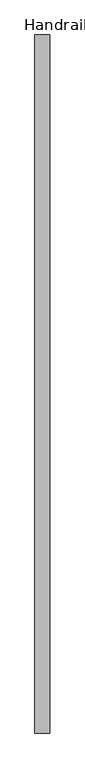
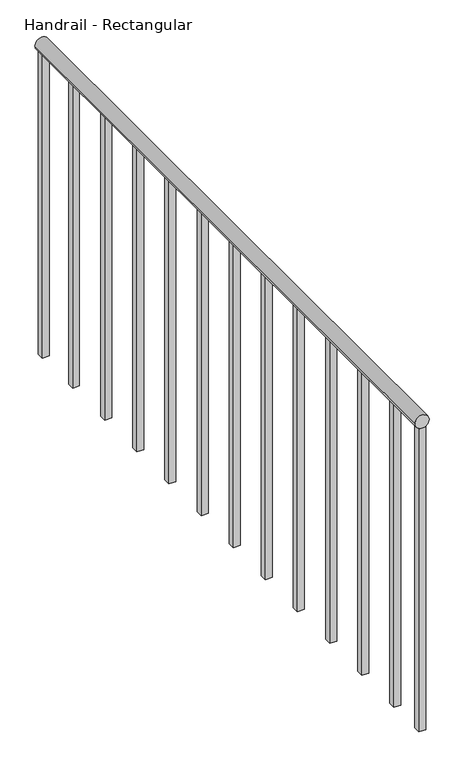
"""IFC4 building model written with IfcOpenShell, lengths in millimetres: railing geometry, Handrail - Rectangular."""

from ifc_helpers import new_model, si_unit, point, frame, frame_2d, origin, place, context, project, spatial, polyline, circle_curve, trimmed, segment, composite_curve, outline, extrude, source, transform, mapped, element, save


def handrail_rectangular_5f131317(model_context):
    return source(origin(), model_context, "Body", "SweptSolid", [
        extrude(outline(composite_curve([segment(trimmed(circle_curve(frame_2d((3943.35, -32167.4839563)), 19.05), [point((3943.35, -32186.5339563))], [point((3943.35, -32148.4339563))], False, "CARTESIAN"), True, "CONTINUOUS"), segment(trimmed(circle_curve(frame_2d((3943.35, -32167.4839563)), 19.05), [point((3943.35, -32148.4339563))], [point((3943.35, -32186.5339563))], False, "CARTESIAN"), True, "CONTINUOUS")], self_intersect=False)), frame((0.0, 8414.2316867, 0.0), z_axis=(0.0, 1.0, 0.0), x_axis=(0.0, 0.0, 1.0)), (0.0, 0.0, 1.0), 1803.4),
        extrude(outline(polyline([(-32157.9589563, 8550.7566867), (-32157.9589563, 8531.7066867), (-32177.0089563, 8531.7066867), (-32177.0089563, 8550.7566867), (-32157.9589563, 8550.7566867)])), frame((0.0, 0.0, 3048.0), z_axis=(0.0, 0.0, 1.0), x_axis=(1.0, 0.0, 0.0)), (0.0, 0.0, 1.0), 876.3),
        extrude(outline(polyline([(-32157.9589563, 8703.1566867), (-32157.9589563, 8684.1066867), (-32177.0089563, 8684.1066867), (-32177.0089563, 8703.1566867), (-32157.9589563, 8703.1566867)])), frame((0.0, 0.0, 3048.0), z_axis=(0.0, 0.0, 1.0), x_axis=(1.0, 0.0, 0.0)), (0.0, 0.0, 1.0), 876.3),
        extrude(outline(polyline([(-32157.9589563, 8855.5566867), (-32157.9589563, 8836.5066867), (-32177.0089563, 8836.5066867), (-32177.0089563, 8855.5566867), (-32157.9589563, 8855.5566867)])), frame((0.0, 0.0, 3048.0), z_axis=(0.0, 0.0, 1.0), x_axis=(1.0, 0.0, 0.0)), (0.0, 0.0, 1.0), 876.3),
        extrude(outline(polyline([(-32157.9589563, 9007.9566867), (-32157.9589563, 8988.9066867), (-32177.0089563, 8988.9066867), (-32177.0089563, 9007.9566867), (-32157.9589563, 9007.9566867)])), frame((0.0, 0.0, 3048.0), z_axis=(0.0, 0.0, 1.0), x_axis=(1.0, 0.0, 0.0)), (0.0, 0.0, 1.0), 876.3),
        extrude(outline(polyline([(-32157.9589563, 9160.3566867), (-32157.9589563, 9141.3066867), (-32177.0089563, 9141.3066867), (-32177.0089563, 9160.3566867), (-32157.9589563, 9160.3566867)])), frame((0.0, 0.0, 3048.0), z_axis=(0.0, 0.0, 1.0), x_axis=(1.0, 0.0, 0.0)), (0.0, 0.0, 1.0), 876.3),
        extrude(outline(polyline([(-32157.9589563, 9312.7566867), (-32157.9589563, 9293.7066867), (-32177.0089563, 9293.7066867), (-32177.0089563, 9312.7566867), (-32157.9589563, 9312.7566867)])), frame((0.0, 0.0, 3048.0), z_axis=(0.0, 0.0, 1.0), x_axis=(1.0, 0.0, 0.0)), (0.0, 0.0, 1.0), 876.3),
        extrude(outline(polyline([(-32157.9589563, 9465.1566867), (-32157.9589563, 9446.1066867), (-32177.0089563, 9446.1066867), (-32177.0089563, 9465.1566867), (-32157.9589563, 9465.1566867)])), frame((0.0, 0.0, 3048.0), z_axis=(0.0, 0.0, 1.0), x_axis=(1.0, 0.0, 0.0)), (0.0, 0.0, 1.0), 876.3),
        extrude(outline(polyline([(-32157.9589563, 9617.5566867), (-32157.9589563, 9598.5066867), (-32177.0089563, 9598.5066867), (-32177.0089563, 9617.5566867), (-32157.9589563, 9617.5566867)])), frame((0.0, 0.0, 3048.0), z_axis=(0.0, 0.0, 1.0), x_axis=(1.0, 0.0, 0.0)), (0.0, 0.0, 1.0), 876.3),
        extrude(outline(polyline([(-32157.9589563, 9769.9566867), (-32157.9589563, 9750.9066867), (-32177.0089563, 9750.9066867), (-32177.0089563, 9769.9566867), (-32157.9589563, 9769.9566867)])), frame((0.0, 0.0, 3048.0), z_axis=(0.0, 0.0, 1.0), x_axis=(1.0, 0.0, 0.0)), (0.0, 0.0, 1.0), 876.3),
        extrude(outline(polyline([(-32157.9589563, 9922.3566867), (-32157.9589563, 9903.3066867), (-32177.0089563, 9903.3066867), (-32177.0089563, 9922.3566867), (-32157.9589563, 9922.3566867)])), frame((0.0, 0.0, 3048.0), z_axis=(0.0, 0.0, 1.0), x_axis=(1.0, 0.0, 0.0)), (0.0, 0.0, 1.0), 876.3),
        extrude(outline(polyline([(-32157.9589563, 10074.7566867), (-32157.9589563, 10055.7066867), (-32177.0089563, 10055.7066867), (-32177.0089563, 10074.7566867), (-32157.9589563, 10074.7566867)])), frame((0.0, 0.0, 3048.0), z_axis=(0.0, 0.0, 1.0), x_axis=(1.0, 0.0, 0.0)), (0.0, 0.0, 1.0), 876.3),
        extrude(outline(polyline([(-32157.9589563, 8433.2816867), (-32157.9589563, 8414.2316867), (-32177.0089563, 8414.2316867), (-32177.0089563, 8433.2816867), (-32157.9589563, 8433.2816867)])), frame((0.0, 0.0, 3048.0), z_axis=(0.0, 0.0, 1.0), x_axis=(1.0, 0.0, 0.0)), (0.0, 0.0, 1.0), 876.3),
        extrude(outline(polyline([(-32157.9589563, 10217.6316867), (-32157.9589563, 10198.5816867), (-32177.0089563, 10198.5816867), (-32177.0089563, 10217.6316867), (-32157.9589563, 10217.6316867)])), frame((0.0, 0.0, 3048.0), z_axis=(0.0, 0.0, 1.0), x_axis=(1.0, 0.0, 0.0)), (0.0, 0.0, 1.0), 876.3),
    ])


if __name__ == "__main__":
    model = new_model("IFC4")
    model_context = context("Model", 3, world=origin())
    ifc_project = project(units=[si_unit("LENGTHUNIT", "METRE", prefix="MILLI")], contexts=[model_context])
    site = spatial("IfcSite", under=ifc_project)
    building = spatial("IfcBuilding", under=site)
    placement = place(None, origin())
    handrail_rectangular_shape = handrail_rectangular_5f131317(model_context)
    element("IfcRailing", 1, ObjectType="Handrail - Rectangular", at=placement, inside=building, context=model_context, shape_type="MappedRepresentation", body=[
        mapped(handrail_rectangular_shape, transform((0.0, 0.0, 0.0), x_axis=(1.0, 0.0, 0.0), y_axis=(0.0, 1.0, 0.0), z_axis=(0.0, 0.0, 1.0))),
    ])
    save(model, "model.ifc")
